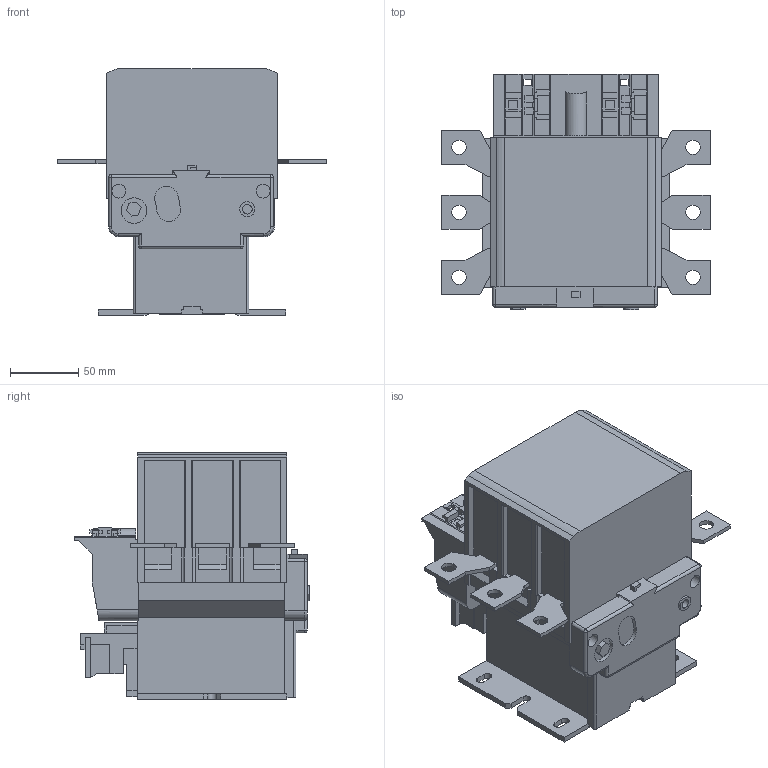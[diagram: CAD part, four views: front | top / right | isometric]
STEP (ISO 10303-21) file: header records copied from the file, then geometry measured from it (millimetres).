
FILE_DESCRIPTION(/* description */ (''),/* implementation_level */ '2;1');
FILE_NAME(/* name */ 'ck3-225',/* time_stamp */ '2022-08-31T15:38:59+08:00',/* author */ (''),/* organization */ (''),/* preprocessor_version */ 'ST-DEVELOPER v14',/* originating_system */ 'SIEMENS PLM Software NX 8.0',/* authorisation */ '');
FILE_SCHEMA (('AP203_CONFIGURATION_CONTROLLED_3D_DESIGN_OF_MECHANICAL_PARTS_AND_ASSEMBLIES_MIM_LF { 1 0 10303 403 2 1 2}'));
Length unit declared in the file: millimetre
Products named in the file (1): Admi1E38C561gk8z
Bounding box: 196 x 171.8 x 180.3 mm (x, y, z)
Volume: 2465251.3 mm3; surface area: 182702.8 mm2
Topology: 1 solids, 1 shells, 605 faces, 1697 edges, 1115 vertices
Faces by surface type: plane 512, cylinder 87, sphere 2, torus 2, bspline 2
Full cylindrical faces by diameter (mm): 7 x1, 10 x2, 10.5 x6, 11 x1, 17.7 x1, 18.7 x1
Entity records: 19226 total; most frequent: CARTESIAN_POINT 3436, ORIENTED_EDGE 3352, DIRECTION 3066, EDGE_CURVE 1676, LINE 1486, VECTOR 1486, VERTEX_POINT 1108, AXIS2_PLACEMENT_3D 790
